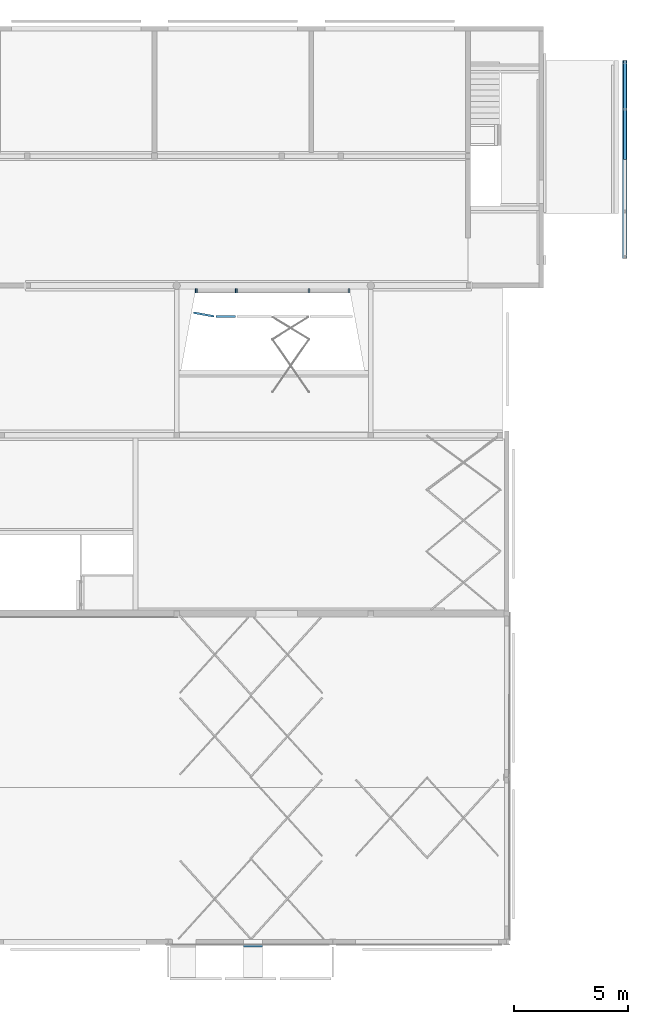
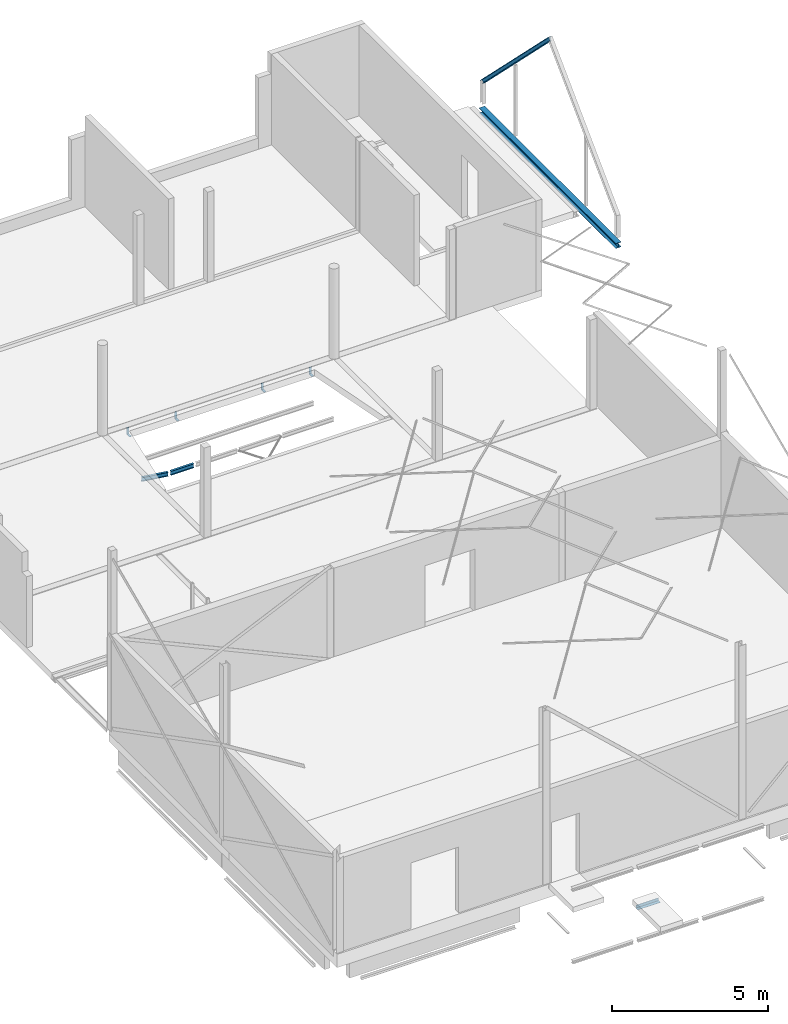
# One storey, part 8 of 14: 9 beams.
"""IFC2X3 building model written with IfcOpenShell, lengths in millimetres."""

from ifc_helpers import new_model, entity, si_unit, converted_unit, derived_unit, direction, frame, frame_2d, origin, place, context, subcontext, project, spatial, polyline, i_section, outline, extrude, clip, halfspace, material, type_object, element, save


model = new_model("IFC2X3")

# Units and contexts
model_context = context("Model", 3, precision=0.01, world=origin(), true_north=direction((6.123031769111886e-17, 1.0)))
body_context = subcontext(model_context, "Body", "Model", "MODEL_VIEW")
ifc_project = project(units=[si_unit("LENGTHUNIT", "METRE", prefix="MILLI"), si_unit("AREAUNIT", "SQUARE_METRE", prefix="MILLI"), si_unit("VOLUMEUNIT", "CUBIC_METRE"), converted_unit("PLANEANGLEUNIT", "DEGREE", entity("IfcPlaneAngleMeasure", 0.017453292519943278), si_unit("PLANEANGLEUNIT", "RADIAN"), dimensions=[0, 0, 0, 0, 0, 0, 0]), si_unit("MASSUNIT", "GRAM", prefix="KILO"), derived_unit("MASSDENSITYUNIT", [(si_unit("MASSUNIT", "GRAM", prefix="KILO"), 1), (si_unit("LENGTHUNIT", "METRE"), -3)]), derived_unit("IONCONCENTRATIONUNIT", [(si_unit("MASSUNIT", "GRAM", prefix="KILO"), 1), (si_unit("LENGTHUNIT", "METRE"), -3)]), derived_unit("MOMENTOFINERTIAUNIT", [(si_unit("LENGTHUNIT", "METRE"), 4)]), si_unit("TIMEUNIT", "SECOND"), si_unit("FREQUENCYUNIT", "HERTZ"), si_unit("THERMODYNAMICTEMPERATUREUNIT", "DEGREE_CELSIUS"), derived_unit("THERMALTRANSMITTANCEUNIT", [(si_unit("MASSUNIT", "GRAM", prefix="KILO"), 1), (si_unit("THERMODYNAMICTEMPERATUREUNIT", "KELVIN"), -1), (si_unit("TIMEUNIT", "SECOND"), -3)]), derived_unit("THERMALCONDUCTANCEUNIT", [(si_unit("MASSUNIT", "GRAM", prefix="KILO"), 1), (si_unit("THERMODYNAMICTEMPERATUREUNIT", "KELVIN"), -1), (si_unit("TIMEUNIT", "SECOND"), -3), (si_unit("LENGTHUNIT", "METRE"), 1)]), derived_unit("VOLUMETRICFLOWRATEUNIT", [(si_unit("LENGTHUNIT", "METRE", prefix="DECI"), 3), (si_unit("TIMEUNIT", "SECOND"), -1)]), derived_unit("MASSFLOWRATEUNIT", [(si_unit("MASSUNIT", "GRAM", prefix="KILO"), 1), (si_unit("TIMEUNIT", "SECOND"), -1)]), derived_unit("ROTATIONALFREQUENCYUNIT", [(si_unit("TIMEUNIT", "SECOND"), -1)]), si_unit("ELECTRICCURRENTUNIT", "AMPERE"), si_unit("ELECTRICVOLTAGEUNIT", "VOLT"), si_unit("POWERUNIT", "WATT"), si_unit("FORCEUNIT", "NEWTON", prefix="KILO"), si_unit("ILLUMINANCEUNIT", "LUX"), si_unit("LUMINOUSFLUXUNIT", "LUMEN"), si_unit("LUMINOUSINTENSITYUNIT", "CANDELA"), si_unit("ENERGYUNIT", "JOULE"), derived_unit("USERDEFINED", [(si_unit("MASSUNIT", "GRAM", prefix="KILO"), -1), (si_unit("LENGTHUNIT", "METRE"), -2), (si_unit("TIMEUNIT", "SECOND"), 3), (si_unit("LUMINOUSFLUXUNIT", "LUMEN"), 1)]), derived_unit("USERDEFINED", [(si_unit("MASSUNIT", "GRAM", prefix="KILO"), 1), (si_unit("TIMEUNIT", "SECOND"), -3), (si_unit("LENGTHUNIT", "METRE"), 3), (si_unit("ELECTRICCURRENTUNIT", "AMPERE"), -2)]), derived_unit("SOUNDPOWERUNIT", [(si_unit("MASSUNIT", "GRAM", prefix="KILO"), 1), (si_unit("TIMEUNIT", "SECOND"), -3), (si_unit("LENGTHUNIT", "METRE"), 2)]), derived_unit("SOUNDPRESSUREUNIT", [(si_unit("MASSUNIT", "GRAM", prefix="KILO"), 1), (si_unit("LENGTHUNIT", "METRE"), -1), (si_unit("TIMEUNIT", "SECOND"), -2)]), derived_unit("LINEARVELOCITYUNIT", [(si_unit("LENGTHUNIT", "METRE"), 1), (si_unit("TIMEUNIT", "SECOND"), -1)]), si_unit("PRESSUREUNIT", "PASCAL"), derived_unit("USERDEFINED", [(si_unit("MASSUNIT", "GRAM", prefix="KILO"), 1), (si_unit("LENGTHUNIT", "METRE"), -2), (si_unit("TIMEUNIT", "SECOND"), -2)]), derived_unit("LINEARFORCEUNIT", [(si_unit("MASSUNIT", "GRAM", prefix="KILO"), 1), (si_unit("TIMEUNIT", "SECOND"), -2)]), derived_unit("PLANARFORCEUNIT", [(si_unit("MASSUNIT", "GRAM", prefix="KILO"), 1), (si_unit("LENGTHUNIT", "METRE"), -1), (si_unit("TIMEUNIT", "SECOND"), -2)]), derived_unit("SPECIFICHEATCAPACITYUNIT", [(si_unit("THERMODYNAMICTEMPERATUREUNIT", "KELVIN"), -1), (si_unit("LENGTHUNIT", "METRE"), 2), (si_unit("TIMEUNIT", "SECOND"), -2)]), derived_unit("HEATFLUXDENSITYUNIT", [(si_unit("MASSUNIT", "GRAM", prefix="KILO"), 1), (si_unit("TIMEUNIT", "SECOND"), -3)]), derived_unit("HEATINGVALUEUNIT", [(si_unit("LENGTHUNIT", "METRE"), 2), (si_unit("TIMEUNIT", "SECOND"), -2)]), derived_unit("VAPORPERMEABILITYUNIT", [(si_unit("LENGTHUNIT", "METRE"), -1), (si_unit("TIMEUNIT", "SECOND"), 1)]), derived_unit("DYNAMICVISCOSITYUNIT", [(si_unit("MASSUNIT", "GRAM", prefix="KILO"), 1), (si_unit("TIMEUNIT", "SECOND"), -1), (si_unit("LENGTHUNIT", "METRE"), -1)]), derived_unit("THERMALEXPANSIONCOEFFICIENTUNIT", [(si_unit("THERMODYNAMICTEMPERATUREUNIT", "KELVIN"), -1)]), derived_unit("MODULUSOFELASTICITYUNIT", [(si_unit("MASSUNIT", "GRAM", prefix="KILO"), 1), (si_unit("LENGTHUNIT", "METRE"), -1), (si_unit("TIMEUNIT", "SECOND"), -2)]), derived_unit("ISOTHERMALMOISTURECAPACITYUNIT", [(si_unit("MASSUNIT", "GRAM", prefix="KILO"), -1), (si_unit("LENGTHUNIT", "METRE"), 3)]), derived_unit("MOISTUREDIFFUSIVITYUNIT", [(si_unit("TIMEUNIT", "SECOND"), -1), (si_unit("LENGTHUNIT", "METRE"), 2)]), derived_unit("MASSPERLENGTHUNIT", [(si_unit("MASSUNIT", "GRAM", prefix="KILO"), 1), (si_unit("LENGTHUNIT", "METRE"), -1)]), derived_unit("THERMALRESISTANCEUNIT", [(si_unit("MASSUNIT", "GRAM", prefix="KILO"), -1), (si_unit("TIMEUNIT", "SECOND"), 3), (si_unit("THERMODYNAMICTEMPERATUREUNIT", "KELVIN"), 1)]), derived_unit("ACCELERATIONUNIT", [(si_unit("LENGTHUNIT", "METRE"), 1), (si_unit("TIMEUNIT", "SECOND"), -2)]), derived_unit("ANGULARVELOCITYUNIT", [(si_unit("TIMEUNIT", "SECOND"), -1), (si_unit("PLANEANGLEUNIT", "RADIAN"), 1)]), derived_unit("LINEARSTIFFNESSUNIT", [(si_unit("MASSUNIT", "GRAM", prefix="KILO"), 1), (si_unit("TIMEUNIT", "SECOND"), -2)]), derived_unit("WARPINGCONSTANTUNIT", [(si_unit("LENGTHUNIT", "METRE"), 6)]), derived_unit("LINEARMOMENTUNIT", [(si_unit("MASSUNIT", "GRAM", prefix="KILO"), 1), (si_unit("LENGTHUNIT", "METRE"), 1), (si_unit("TIMEUNIT", "SECOND"), -2)]), derived_unit("TORQUEUNIT", [(si_unit("MASSUNIT", "GRAM", prefix="KILO"), 1), (si_unit("LENGTHUNIT", "METRE"), 2), (si_unit("TIMEUNIT", "SECOND"), -2)])], contexts=[model_context])

# Site, building, storey
site_placement = place(None, origin())
site = spatial("IfcSite", under=ifc_project, at=site_placement, Name="Default", CompositionType="ELEMENT")
building_placement = place(site_placement, origin())
building = spatial("IfcBuilding", under=site, at=building_placement, CompositionType="ELEMENT")
storey_placement = place(building_placement, frame((0.0, 0.0, 3730.0)))
storey = spatial("IfcBuildingStorey", under=building, at=storey_placement, Name="V1 1e verd. (bk ruwe vloer)", CompositionType="ELEMENT", Elevation=3729.9999999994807)

# Beams
ifc_material = material(Name="Metal - Steel - S235 JRG2 (standaard)")
beam_type_1 = type_object("IfcBeamType", Name="btl_staal - Hoeklijn 2.0:L120x120x12", PredefinedType="NOTDEFINED")
beam_1_placement = place(storey_placement, frame((17644.602642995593, 2896.6050130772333, -1872.0)))
element("IfcBeam", 1, at=beam_1_placement, inside=storey, type_object=beam_type_1, material=ifc_material, Name="btl_staal - Hoeklijn 2.0:L120x120x12", ObjectType="btl_staal - Hoeklijn 2.0:L120x120x12", context=body_context, shape_type="SweptSolid", body=[
    extrude(outline(polyline([(32.0, -76.0), (44.0, -76.0), (44.0, 44.0), (-76.0, 44.0), (-76.0, 32.0), (32.0, 32.0), (32.0, -76.0)])), frame((0.0, -10.0, -76.0), z_axis=(1.0, 0.0, 0.0), x_axis=(0.0, 0.0, -1.0)), (0.0, 0.0, 1.0), 837.9853499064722),
])
beam_type_2 = type_object("IfcBeamType", Name="btl_staal - IPE:IPE160", PredefinedType="NOTDEFINED")
beam_2_placement = place(storey_placement, frame((15434.941950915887, 30748.844315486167, -1257.3999999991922), z_axis=(0.0, 0.0, 1.0), x_axis=(0.9838854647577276, -0.1787998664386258, 0.0)))
element("IfcBeam", 2, at=beam_2_placement, inside=storey, type_object=beam_type_2, material=ifc_material, Name="btl_staal - IPE:IPE160", ObjectType="btl_staal - IPE:IPE160", context=body_context, shape_type="SweptSolid", body=[
    extrude(i_section(OverallWidth=81.99999999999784, OverallDepth=159.9999999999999, WebThickness=5.000000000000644, FlangeThickness=7.400000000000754, at=frame_2d((5.471179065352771e-13, 6.583178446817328e-12), x_axis=(0.0, 1.0))), frame((12.705386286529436, 0.0, -80.0), z_axis=(1.0, 0.0, 0.0), x_axis=(0.0, 0.0, -1.0)), (0.0, 0.0, 1.0), 903.2847997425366),
])
beam_3_placement = place(storey_placement, frame((16379.93964806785, 30585.06539256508, -1257.3999999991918)))
element("IfcBeam", 3, at=beam_3_placement, inside=storey, type_object=beam_type_2, material=ifc_material, Name="btl_staal - IPE:IPE160", ObjectType="btl_staal - IPE:IPE160", context=body_context, shape_type="SweptSolid", body=[
    extrude(i_section(OverallWidth=82.00000000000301, OverallDepth=159.9999999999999, WebThickness=4.999999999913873, FlangeThickness=7.400000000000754, at=frame_2d((2.7000623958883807e-13, 0.0), x_axis=(0.0, 1.0))), frame((49.128938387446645, 0.0, -80.0), z_axis=(1.0, 0.0, 0.0), x_axis=(0.0, 0.0, -1.0)), (0.0, 0.0, 1.0), 854.6228946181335),
])
beam_type_3 = type_object("IfcBeamType", Name="btl_staal - Hoeklijn 2.0:L260x180x10", PredefinedType="NOTDEFINED")
beam_4_placement = place(storey_placement, frame((15600.532850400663, 31784.213205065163, 0.0), z_axis=(0.0, 0.0, 1.0), x_axis=(-1.0, 0.0, 0.0)))
element("IfcBeam", 4, at=beam_4_placement, inside=storey, type_object=beam_type_3, material=ifc_material, Name="btl_staal - Hoeklijn 2.0:L260x180x10", ObjectType="btl_staal - Hoeklijn 2.0:L260x180x10", context=body_context, shape_type="SweptSolid", body=[
    extrude(outline(polyline([(-170.0, -63.333333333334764), (90.0, -63.333333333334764), (90.0, 116.66666666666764), (80.0, 116.66666666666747), (80.0, -53.3333333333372), (-170.0, -53.33333333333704), (-170.0, -63.333333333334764)])), frame((0.0, 39.97333333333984, -170.0), z_axis=(1.0, 0.0, 0.0), x_axis=(0.0, 0.0, -1.0)), (0.0, 0.0, 1.0), 80.00000000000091),
])
beam_5_placement = place(storey_placement, frame((17364.691481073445, 31784.213205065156, 0.0), z_axis=(0.0, 0.0, 1.0), x_axis=(-1.0, 0.0, 0.0)))
element("IfcBeam", 5, at=beam_5_placement, inside=storey, type_object=beam_type_3, material=ifc_material, Name="btl_staal - Hoeklijn 2.0:L260x180x10", ObjectType="btl_staal - Hoeklijn 2.0:L260x180x10", context=body_context, shape_type="SweptSolid", body=[
    extrude(outline(polyline([(-170.0, -63.3333333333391), (90.0, -63.3333333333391), (90.0, 116.6666666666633), (80.0, 116.66666666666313), (80.0, -53.33333333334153), (-170.0, -53.33333333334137), (-170.0, -63.3333333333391)])), frame((0.0, 39.97333333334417, -170.0), z_axis=(1.0, 0.0, 0.0), x_axis=(0.0, 0.0, -1.0)), (0.0, 0.0, 1.0), 80.00000000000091),
])
beam_6_placement = place(storey_placement, frame((20566.59505965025, 31784.21320506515, 0.0), z_axis=(0.0, 0.0, 1.0), x_axis=(-1.0, 0.0, 0.0)))
element("IfcBeam", 6, at=beam_6_placement, inside=storey, type_object=beam_type_3, material=ifc_material, Name="btl_staal - Hoeklijn 2.0:L260x180x10", ObjectType="btl_staal - Hoeklijn 2.0:L260x180x10", context=body_context, shape_type="SweptSolid", body=[
    extrude(outline(polyline([(-170.0, -63.33333333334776), (90.0, -63.33333333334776), (90.0, 116.66666666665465), (80.0, 116.66666666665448), (80.0, -53.33333333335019), (-170.0, -53.33333333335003), (-170.0, -63.33333333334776)])), frame((0.0, 39.973333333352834, -170.0), z_axis=(1.0, 0.0, 0.0), x_axis=(0.0, 0.0, -1.0)), (0.0, 0.0, 1.0), 80.00000000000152),
])
beam_7_placement = place(storey_placement, frame((22330.645339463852, 31784.213205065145, 0.0), z_axis=(0.0, 0.0, 1.0), x_axis=(-1.0, 0.0, 0.0)))
element("IfcBeam", 7, at=beam_7_placement, inside=storey, type_object=beam_type_3, material=ifc_material, Name="btl_staal - Hoeklijn 2.0:L260x180x10", ObjectType="btl_staal - Hoeklijn 2.0:L260x180x10", context=body_context, shape_type="SweptSolid", body=[
    extrude(outline(polyline([(-170.0, -63.333333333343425), (90.0, -63.333333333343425), (90.0, 116.66666666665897), (80.0, 116.66666666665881), (80.0, -53.33333333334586), (-170.0, -53.3333333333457), (-170.0, -63.333333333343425)])), frame((0.0, 39.9733333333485, -170.0), z_axis=(1.0, 0.0, 0.0), x_axis=(0.0, 0.0, -1.0)), (0.0, 0.0, 1.0), 80.00000000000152),
])
beam_type_4 = type_object("IfcBeamType", Name="btl_staal - HE(a-b-m):HEA140", PredefinedType="NOTDEFINED")
beam_8_placement = place(storey_placement, frame((34439.97719495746, 41842.26627464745, 886.9145378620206), z_axis=(0.0, 0.7047360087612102, 0.7094696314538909), x_axis=(0.0, -0.7094696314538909, 0.7047360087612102)))
element("IfcBeam", 8, at=beam_8_placement, inside=storey, type_object=beam_type_4, material=ifc_material, Name="btl_staal - HE(a-b-m):HEA140", ObjectType="btl_staal - HE(a-b-m):HEA140", context=body_context, shape_type="SweptSolid", body=[
    clip(clip(extrude(i_section(OverallWidth=140.00000000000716, OverallDepth=133.00000000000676, WebThickness=5.499999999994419, FlangeThickness=8.500000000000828, at=frame_2d((-4.007461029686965e-12, 2.1600499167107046e-12), x_axis=(0.0, 1.0))), frame((-27.675681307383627, 0.0, -66.50000000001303), z_axis=(1.0, 0.0, 0.0), x_axis=(0.0, 0.0, -1.0)), (0.0, 0.0, 1.0), 6168.070618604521), halfspace(frame((27.675681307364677, 0.0, -133.0), z_axis=(-0.9232377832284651, 0.0, -0.3842290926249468), x_axis=(0.0, 1.0, 0.0)), False)), halfspace(frame((6140.394937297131, 0.0, 0.0), z_axis=(0.7090138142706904, 0.0, -0.7051945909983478), x_axis=(0.7051945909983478, 0.0, 0.7090138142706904)), False)),
])
beam_type_5 = type_object("IfcBeamType", Name="btl_staal - HE(a-b-m):HEB200", PredefinedType="NOTDEFINED")
beam_9_placement = place(storey_placement, frame((34439.97719495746, 41861.83352589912, -200.0), z_axis=(0.0, 0.0, 1.0), x_axis=(0.0, -1.0, 0.0)))
element("IfcBeam", 9, at=beam_9_placement, inside=storey, type_object=beam_type_5, material=ifc_material, Name="btl_staal - HE(a-b-m):HEB200", ObjectType="btl_staal - HE(a-b-m):HEB200", context=body_context, shape_type="SweptSolid", body=[
    extrude(i_section(OverallWidth=200.0000000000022, OverallDepth=200.0, WebThickness=9.000000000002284, FlangeThickness=14.999999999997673, at=frame_2d((5.471179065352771e-13, 2.1671553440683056e-12), x_axis=(0.0, 1.0))), frame((0.0, 0.0, -100.0), z_axis=(1.0, 0.0, 0.0), x_axis=(0.0, 0.0, -1.0)), (0.0, 0.0, 1.0), 8736.588445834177),
])

save(model, "model.ifc")
